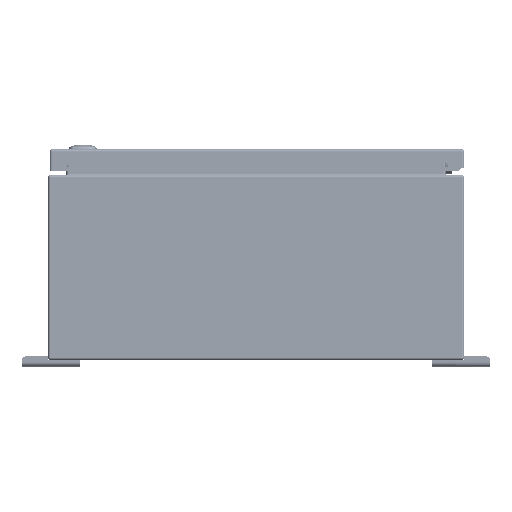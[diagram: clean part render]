
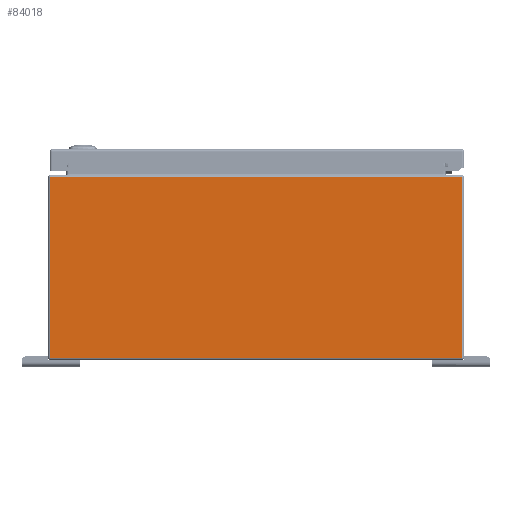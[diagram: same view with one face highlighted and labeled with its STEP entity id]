
A CAD part, left-side view. The second image highlights one B-rep face of the part: STEP entity #84018.
In plain terms, the highlighted planar face has unit normal (-1, 0, 0).
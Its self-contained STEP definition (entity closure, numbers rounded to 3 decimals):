
#5238=PLANE('',#90079);
#7293=LINE('',#117461,#13627);
#7294=LINE('',#117465,#13628);
#7295=LINE('',#117467,#13629);
#7296=LINE('',#117469,#13630);
#7297=LINE('',#117471,#13631);
#7298=LINE('',#117472,#13632);
#13627=VECTOR('',#97177,0.394);
#13628=VECTOR('',#97182,0.394);
#13629=VECTOR('',#97183,0.394);
#13630=VECTOR('',#97184,0.394);
#13631=VECTOR('',#97185,0.394);
#13632=VECTOR('',#97186,0.394);
#21232=FACE_OUTER_BOUND('',#26284,.T.);
#26284=EDGE_LOOP('',(#56472,#56473,#56474,#56475,#56476,#56477));
#34674=VERTEX_POINT('',#117443);
#34681=VERTEX_POINT('',#117460);
#34682=VERTEX_POINT('',#117464);
#34683=VERTEX_POINT('',#117466);
#34684=VERTEX_POINT('',#117468);
#34685=VERTEX_POINT('',#117470);
#43175=EDGE_CURVE('',#34674,#34681,#7293,.T.);
#43177=EDGE_CURVE('',#34682,#34674,#7294,.T.);
#43178=EDGE_CURVE('',#34682,#34683,#7295,.T.);
#43179=EDGE_CURVE('',#34684,#34683,#7296,.T.);
#43180=EDGE_CURVE('',#34685,#34684,#7297,.T.);
#43181=EDGE_CURVE('',#34685,#34681,#7298,.T.);
#56472=ORIENTED_EDGE('',*,*,#43177,.F.);
#56473=ORIENTED_EDGE('',*,*,#43178,.T.);
#56474=ORIENTED_EDGE('',*,*,#43179,.F.);
#56475=ORIENTED_EDGE('',*,*,#43180,.F.);
#56476=ORIENTED_EDGE('',*,*,#43181,.T.);
#56477=ORIENTED_EDGE('',*,*,#43175,.F.);
#84018=ADVANCED_FACE('',(#21232),#5238,.F.);
#90079=AXIS2_PLACEMENT_3D('',#117463,#97180,#97181);
#97177=DIRECTION('',(0.,0.,-1.));
#97180=DIRECTION('center_axis',(1.,0.,0.));
#97181=DIRECTION('ref_axis',(0.,0.,-1.));
#97182=DIRECTION('',(0.,-1.,0.));
#97183=DIRECTION('',(0.,1.,0.));
#97184=DIRECTION('',(0.,-1.,0.));
#97185=DIRECTION('',(0.,0.,1.));
#97186=DIRECTION('',(0.,-1.,0.));
#117443=CARTESIAN_POINT('',(-18.,-8.901,7.901));
#117460=CARTESIAN_POINT('',(-18.,-8.901,0.099));
#117461=CARTESIAN_POINT('',(-18.,-8.901,4.));
#117463=CARTESIAN_POINT('Origin',(-18.,0.,4.));
#117464=CARTESIAN_POINT('',(-18.,-8.126,7.901));
#117465=CARTESIAN_POINT('',(-18.,-4.475,7.901));
#117466=CARTESIAN_POINT('',(-18.,8.126,7.901));
#117467=CARTESIAN_POINT('',(-18.,4.455,7.901));
#117468=CARTESIAN_POINT('',(-18.,8.901,7.901));
#117469=CARTESIAN_POINT('',(-18.,-4.475,7.901));
#117470=CARTESIAN_POINT('',(-18.,8.901,0.099));
#117471=CARTESIAN_POINT('',(-18.,8.901,4.));
#117472=CARTESIAN_POINT('',(-18.,4.5,0.099));
